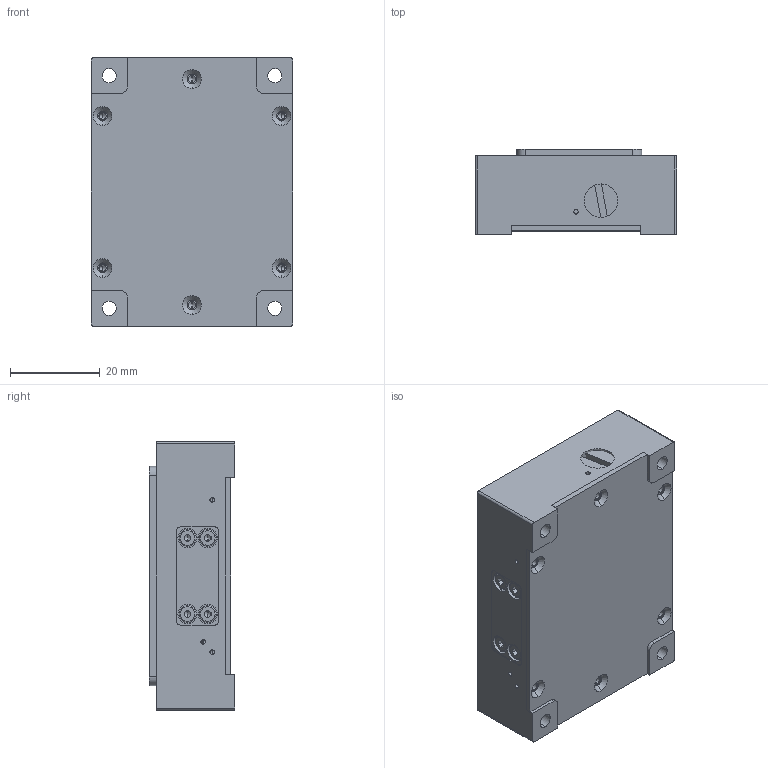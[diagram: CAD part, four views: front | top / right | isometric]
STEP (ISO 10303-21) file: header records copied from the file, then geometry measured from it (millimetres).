
FILE_DESCRIPTION (( 'STEP AP203' ), '1' );
FILE_NAME ('NP-ST-X-1.STEP', '2023-10-17T07:37:49', ( '' ), ( '' ), 'SwSTEP 2.0', 'SolidWorks 2021', '' );
FILE_SCHEMA (( 'CONFIG_CONTROL_DESIGN' ));
Length unit declared in the file: millimetre
Products named in the file (12): 电容传感器陶瓷静基板; 揤盄輸; 階蹟佪; 压电陶瓷紧定螺钉36; 奻裔啣; 电容传感器陶瓷动基板; NP-ST-X-1; 眄璃; 狟裔啣; hexagon socket head cap screws gb_GB_FASTENER_SCREWS_HSHCS M2X5-N; 揤萇枎棟輸20; stage1.0
Assembly tree (16 placements, depth 2):
  NP-ST-X-1
    stage1.0
    狟裔啣
    揤萇枎棟輸20
    压电陶瓷紧定螺钉36
    奻裔啣
    电容传感器陶瓷动基板
    眄璃
    电容传感器陶瓷静基板
    揤盄輸
    hexagon socket head cap screws gb_GB_FASTENER_SCREWS_HSHCS M2X5-N  x6
    階蹟佪
Bounding box: 45 x 19 x 60 mm (x, y, z)
Volume: 40737.6 mm3; surface area: 28941.7 mm2
Topology: 16 solids, 16 shells, 824 faces, 2195 edges, 1399 vertices
Faces by surface type: plane 476, cylinder 252, cone 82, torus 12, sphere 2
Entity records: 23563 total; most frequent: CARTESIAN_POINT 3984, DIRECTION 3801, ORIENTED_EDGE 3762, EDGE_CURVE 1881, LINE 1351, VECTOR 1351, VERTEX_POINT 1230, AXIS2_PLACEMENT_3D 1225
